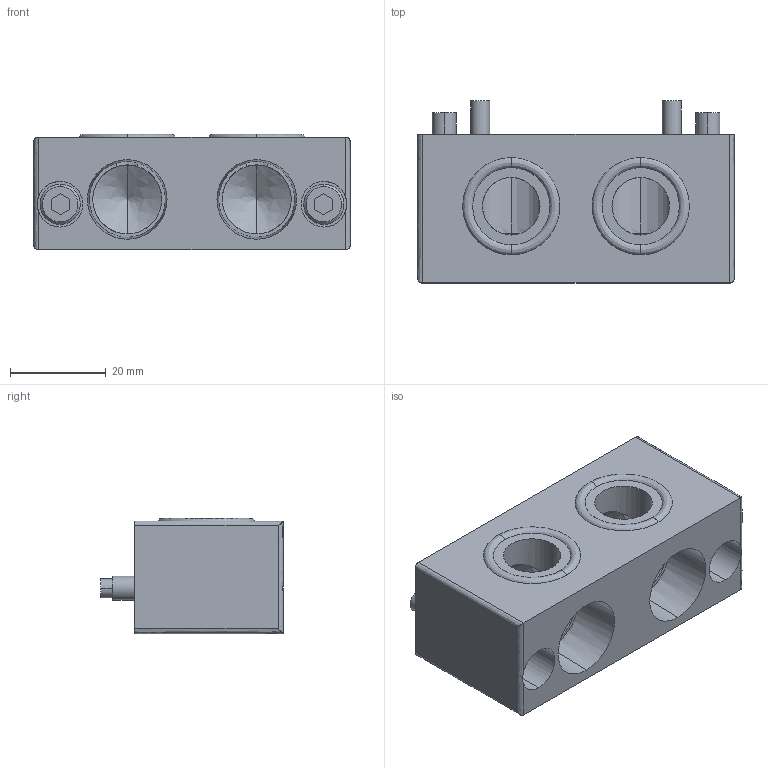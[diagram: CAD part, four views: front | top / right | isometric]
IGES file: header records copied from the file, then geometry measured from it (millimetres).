
Start section: 3D InterOp IGES (v. 2022 1.0.0), Spatial Corp. Copyright (c) 1999-2020.
Global section: file name: KHB-45~300HS-EP102_ver1.igs; native system: Spatial Corp.; preprocessor: 3D InterOp GENERIC/IGES 3.0; author: Noname; organization: Noname; date: 20260427.165204; units: millimetre
Bounding box: 66 x 38 x 24.1 mm (x, y, z)
Surface area: 13585.1 mm2 (no closed solid volume)
Topology: 0 solids, 0 shells, 99 faces, 474 edges, 470 vertices
Faces by surface type: revolution 59, extrusion 40
